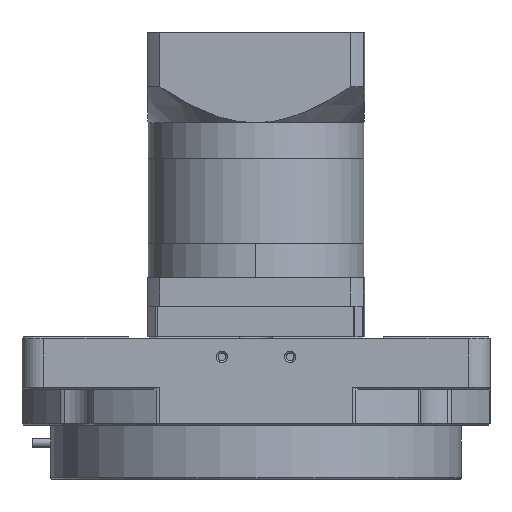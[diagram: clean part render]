
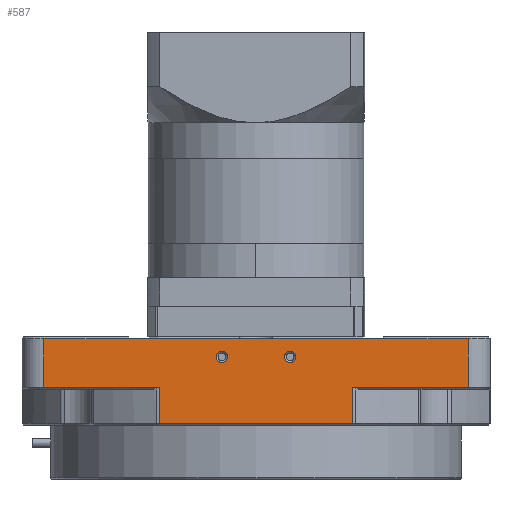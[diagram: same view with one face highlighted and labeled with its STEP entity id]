
A CAD part, front view. The second image highlights one B-rep face of the part: STEP entity #587.
In plain terms, the highlighted planar face has unit normal (0, -1, 0).
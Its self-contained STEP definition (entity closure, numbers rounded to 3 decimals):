
#187 = LINE ( 'NONE', #38713, #1094 ) ;
#467 = DIRECTION ( 'NONE',  ( 1., 0., 0. ) ) ;
#587 = ADVANCED_FACE ( 'NONE', ( #9587, #2675, #58616 ), #8857, .F. ) ;
#904 = CARTESIAN_POINT ( 'NONE',  ( -18.595, -96.132, 6.75 ) ) ;
#1094 = VECTOR ( 'NONE', #17252, 1000. ) ;
#1265 = CARTESIAN_POINT ( 'NONE',  ( 0.405, -96.132, 6.75 ) ) ;
#1682 = LINE ( 'NONE', #17699, #12090 ) ;
#1775 = CARTESIAN_POINT ( 'NONE',  ( -35.988, -96.132, -1.75 ) ) ;
#1776 = CIRCLE ( 'NONE', #20363, 1.55 ) ;
#1825 = EDGE_CURVE ( 'NONE', #60418, #64728, #51317, .T. ) ;
#1908 = CARTESIAN_POINT ( 'NONE',  ( -44.095, -96.132, 11.75 ) ) ;
#2378 = EDGE_CURVE ( 'NONE', #14310, #61968, #31604, .T. ) ;
#2675 = FACE_BOUND ( 'NONE', #71128, .T. ) ;
#3438 = CIRCLE ( 'NONE', #11611, 1.55 ) ;
#5790 = VECTOR ( 'NONE', #51782, 1000. ) ;
#6527 = DIRECTION ( 'NONE',  ( 0., 0., -1. ) ) ;
#7133 = ORIENTED_EDGE ( 'NONE', *, *, #20429, .F. ) ;
#7404 = DIRECTION ( 'NONE',  ( 0., 1., 0. ) ) ;
#8001 = EDGE_CURVE ( 'NONE', #60418, #42650, #187, .T. ) ;
#8857 = PLANE ( 'NONE',  #16872 ) ;
#9587 = FACE_BOUND ( 'NONE', #18428, .T. ) ;
#10094 = CARTESIAN_POINT ( 'NONE',  ( 0.405, -96.132, 8.3 ) ) ;
#10566 = CARTESIAN_POINT ( 'NONE',  ( -45.095, -96.132, 11.75 ) ) ;
#11611 = AXIS2_PLACEMENT_3D ( 'NONE', #44250, #49681, #43518 ) ;
#11869 = LINE ( 'NONE', #52138, #36035 ) ;
#12090 = VECTOR ( 'NONE', #13309, 1000. ) ;
#12804 = CARTESIAN_POINT ( 'NONE',  ( -68.095, -96.132, 11.75 ) ) ;
#13309 = DIRECTION ( 'NONE',  ( 1., 0., 0. ) ) ;
#13674 = ORIENTED_EDGE ( 'NONE', *, *, #19373, .T. ) ;
#14310 = VERTEX_POINT ( 'NONE', #45802 ) ;
#16216 = ORIENTED_EDGE ( 'NONE', *, *, #43085, .T. ) ;
#16872 = AXIS2_PLACEMENT_3D ( 'NONE', #31038, #50252, #467 ) ;
#17099 = CARTESIAN_POINT ( 'NONE',  ( -68.095, -96.132, 12.25 ) ) ;
#17252 = DIRECTION ( 'NONE',  ( -1., 0., 0. ) ) ;
#17699 = CARTESIAN_POINT ( 'NONE',  ( -35.988, -96.132, -1.75 ) ) ;
#18428 = EDGE_LOOP ( 'NONE', ( #70880, #18876 ) ) ;
#18751 = CARTESIAN_POINT ( 'NONE',  ( 17.798, -96.132, -11.75 ) ) ;
#18876 = ORIENTED_EDGE ( 'NONE', *, *, #36931, .T. ) ;
#18943 = ORIENTED_EDGE ( 'NONE', *, *, #2378, .T. ) ;
#19079 = CARTESIAN_POINT ( 'NONE',  ( -68.095, -96.132, -1.75 ) ) ;
#19250 = VECTOR ( 'NONE', #6527, 1000. ) ;
#19373 = EDGE_CURVE ( 'NONE', #31870, #66297, #23443, .T. ) ;
#19871 = VERTEX_POINT ( 'NONE', #68986 ) ;
#20363 = AXIS2_PLACEMENT_3D ( 'NONE', #51464, #61671, #28978 ) ;
#20385 = VERTEX_POINT ( 'NONE', #48558 ) ;
#20429 = EDGE_CURVE ( 'NONE', #19871, #20385, #21307, .T. ) ;
#21307 = LINE ( 'NONE', #43855, #35422 ) ;
#23443 = CIRCLE ( 'NONE', #51244, 1.55 ) ;
#24905 = VECTOR ( 'NONE', #57469, 1000. ) ;
#25988 = ORIENTED_EDGE ( 'NONE', *, *, #41061, .T. ) ;
#28889 = CARTESIAN_POINT ( 'NONE',  ( -68.095, -96.132, 11.75 ) ) ;
#28978 = DIRECTION ( 'NONE',  ( 0., 0., 1. ) ) ;
#29583 = DIRECTION ( 'NONE',  ( 0., 0., 1. ) ) ;
#31038 = CARTESIAN_POINT ( 'NONE',  ( -68.095, -96.132, 12.25 ) ) ;
#31198 = CIRCLE ( 'NONE', #71807, 1.55 ) ;
#31604 = LINE ( 'NONE', #58824, #31953 ) ;
#31870 = VERTEX_POINT ( 'NONE', #40733 ) ;
#31953 = VECTOR ( 'NONE', #47579, 1000. ) ;
#32091 = LINE ( 'NONE', #54238, #45700 ) ;
#33617 = VERTEX_POINT ( 'NONE', #1775 ) ;
#34273 = EDGE_CURVE ( 'NONE', #45683, #49463, #31198, .T. ) ;
#34962 = DIRECTION ( 'NONE',  ( -1., 0., 0. ) ) ;
#35422 = VECTOR ( 'NONE', #49643, 1000. ) ;
#35565 = ORIENTED_EDGE ( 'NONE', *, *, #61247, .T. ) ;
#36035 = VECTOR ( 'NONE', #46007, 1000. ) ;
#36931 = EDGE_CURVE ( 'NONE', #49463, #45683, #1776, .T. ) ;
#37104 = ORIENTED_EDGE ( 'NONE', *, *, #1825, .F. ) ;
#37294 = CARTESIAN_POINT ( 'NONE',  ( -18.595, -96.132, 8.3 ) ) ;
#37431 = CARTESIAN_POINT ( 'NONE',  ( 0.405, -96.132, 5.2 ) ) ;
#38713 = CARTESIAN_POINT ( 'NONE',  ( -68.095, -96.132, 11.75 ) ) ;
#39093 = DIRECTION ( 'NONE',  ( 0., 1., 0. ) ) ;
#40387 = EDGE_CURVE ( 'NONE', #61968, #20385, #32091, .T. ) ;
#40733 = CARTESIAN_POINT ( 'NONE',  ( -18.595, -96.132, 5.2 ) ) ;
#41061 = EDGE_CURVE ( 'NONE', #44816, #33617, #1682, .T. ) ;
#42650 = VERTEX_POINT ( 'NONE', #28889 ) ;
#43085 = EDGE_CURVE ( 'NONE', #19871, #64728, #57096, .T. ) ;
#43518 = DIRECTION ( 'NONE',  ( 0., 0., 1. ) ) ;
#43855 = CARTESIAN_POINT ( 'NONE',  ( 49.905, -96.132, 12.25 ) ) ;
#44250 = CARTESIAN_POINT ( 'NONE',  ( -18.595, -96.132, 6.75 ) ) ;
#44388 = EDGE_LOOP ( 'NONE', ( #7133, #16216, #37104, #68188, #35565, #25988, #48897, #49074, #18943, #56199 ) ) ;
#44816 = VERTEX_POINT ( 'NONE', #19079 ) ;
#45683 = VERTEX_POINT ( 'NONE', #37431 ) ;
#45700 = VECTOR ( 'NONE', #70953, 1000. ) ;
#45802 = CARTESIAN_POINT ( 'NONE',  ( 17.798, -96.132, -11.75 ) ) ;
#46007 = DIRECTION ( 'NONE',  ( 0., 0., -1. ) ) ;
#47579 = DIRECTION ( 'NONE',  ( 0., 0., 1. ) ) ;
#48374 = EDGE_CURVE ( 'NONE', #66297, #31870, #3438, .T. ) ;
#48558 = CARTESIAN_POINT ( 'NONE',  ( 49.905, -96.132, -1.75 ) ) ;
#48897 = ORIENTED_EDGE ( 'NONE', *, *, #71850, .T. ) ;
#49074 = ORIENTED_EDGE ( 'NONE', *, *, #52644, .T. ) ;
#49463 = VERTEX_POINT ( 'NONE', #10094 ) ;
#49643 = DIRECTION ( 'NONE',  ( 0., 0., -1. ) ) ;
#49681 = DIRECTION ( 'NONE',  ( 0., 1., 0. ) ) ;
#50252 = DIRECTION ( 'NONE',  ( 0., 1., 0. ) ) ;
#50551 = VECTOR ( 'NONE', #34962, 1000. ) ;
#51244 = AXIS2_PLACEMENT_3D ( 'NONE', #904, #39093, #61593 ) ;
#51317 = LINE ( 'NONE', #1908, #24905 ) ;
#51464 = CARTESIAN_POINT ( 'NONE',  ( 0.405, -96.132, 6.75 ) ) ;
#51782 = DIRECTION ( 'NONE',  ( 1., 0., 0. ) ) ;
#52138 = CARTESIAN_POINT ( 'NONE',  ( -35.988, -96.132, -12.25 ) ) ;
#52644 = EDGE_CURVE ( 'NONE', #68216, #14310, #59560, .T. ) ;
#53509 = ORIENTED_EDGE ( 'NONE', *, *, #48374, .T. ) ;
#54238 = CARTESIAN_POINT ( 'NONE',  ( 49.905, -96.132, -1.75 ) ) ;
#56199 = ORIENTED_EDGE ( 'NONE', *, *, #40387, .T. ) ;
#56293 = LINE ( 'NONE', #17099, #19250 ) ;
#56300 = CARTESIAN_POINT ( 'NONE',  ( -35.988, -96.132, -11.75 ) ) ;
#57096 = LINE ( 'NONE', #12804, #50551 ) ;
#57469 = DIRECTION ( 'NONE',  ( 1., 0., 0. ) ) ;
#58158 = CARTESIAN_POINT ( 'NONE',  ( 17.798, -96.132, -1.75 ) ) ;
#58616 = FACE_OUTER_BOUND ( 'NONE', #44388, .T. ) ;
#58824 = CARTESIAN_POINT ( 'NONE',  ( 17.798, -96.132, -2.25 ) ) ;
#59560 = LINE ( 'NONE', #18751, #5790 ) ;
#60418 = VERTEX_POINT ( 'NONE', #10566 ) ;
#61247 = EDGE_CURVE ( 'NONE', #42650, #44816, #56293, .T. ) ;
#61593 = DIRECTION ( 'NONE',  ( 0., 0., 1. ) ) ;
#61671 = DIRECTION ( 'NONE',  ( 0., 1., 0. ) ) ;
#61968 = VERTEX_POINT ( 'NONE', #58158 ) ;
#63600 = CARTESIAN_POINT ( 'NONE',  ( 26.905, -96.132, 11.75 ) ) ;
#64728 = VERTEX_POINT ( 'NONE', #63600 ) ;
#66297 = VERTEX_POINT ( 'NONE', #37294 ) ;
#68188 = ORIENTED_EDGE ( 'NONE', *, *, #8001, .T. ) ;
#68216 = VERTEX_POINT ( 'NONE', #56300 ) ;
#68986 = CARTESIAN_POINT ( 'NONE',  ( 49.905, -96.132, 11.75 ) ) ;
#70880 = ORIENTED_EDGE ( 'NONE', *, *, #34273, .T. ) ;
#70953 = DIRECTION ( 'NONE',  ( 1., 0., 0. ) ) ;
#71128 = EDGE_LOOP ( 'NONE', ( #13674, #53509 ) ) ;
#71807 = AXIS2_PLACEMENT_3D ( 'NONE', #1265, #7404, #29583 ) ;
#71850 = EDGE_CURVE ( 'NONE', #33617, #68216, #11869, .T. ) ;
